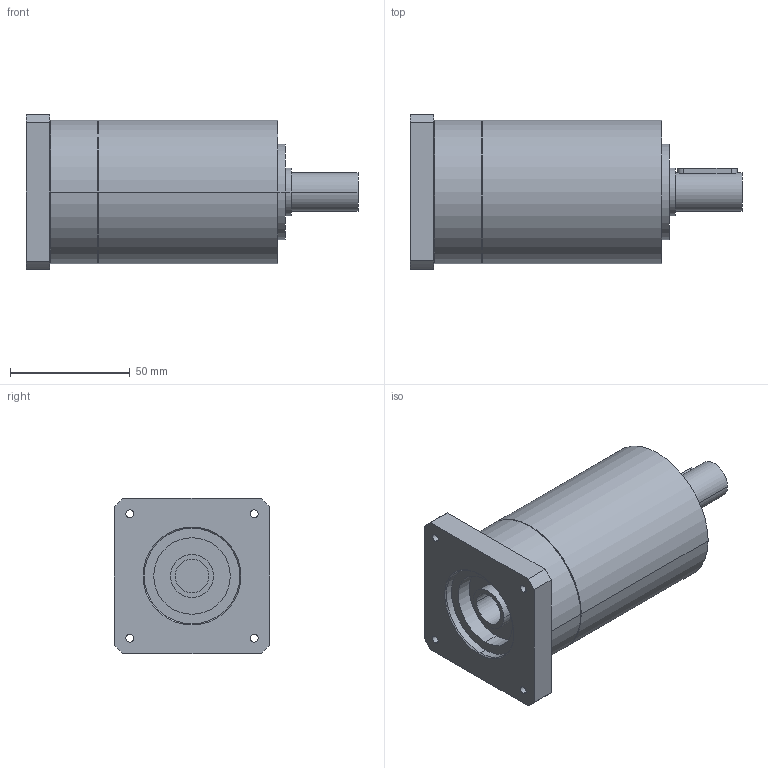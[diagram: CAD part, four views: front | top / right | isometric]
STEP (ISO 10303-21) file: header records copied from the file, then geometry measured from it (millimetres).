
FILE_DESCRIPTION(('CoCreate Modeling STEP Export'),'2;1');
FILE_NAME('GPR75_ig-9-12-16-20-24-30-36_16_B14_14_P34.stp','2014-08-25T16:03:43',(''),(''),'CoCreate Modeling STEP processor for AP214 (Solid Model)','CoCreate Modeling 16.00C 25-Feb-2009 (C) Parametric Technology GmbH','');
FILE_SCHEMA(('AUTOMOTIVE_DESIGN { 1 0 10303 214 1 1 1 1 }'));
Length unit declared in the file: millimetre
Products named in the file (2): GPR75_ig-9-12-16-20-24-30-36_16_B14_14_P34
Assembly tree (1 placements, depth 2):
  GPR75_ig-9-12-16-20-24-30-36_16_B14_14_P34
    GPR75_ig-9-12-16-20-24-30-36_16_B14_14_P34
Bounding box: 138.9 x 65 x 65 mm (x, y, z)
Volume: 307965.3 mm3; surface area: 34840.7 mm2
Topology: 1 solids, 1 shells, 72 faces, 191 edges, 133 vertices
Faces by surface type: cylinder 42, plane 22, cone 8
Entity records: 1974 total; most frequent: ORIENTED_EDGE 378, CARTESIAN_POINT 365, DIRECTION 268, EDGE_CURVE 189, VERTEX_POINT 133, AXIS2_PLACEMENT_3D 100, EDGE_LOOP 94, FACE_OUTER_BOUND 72
